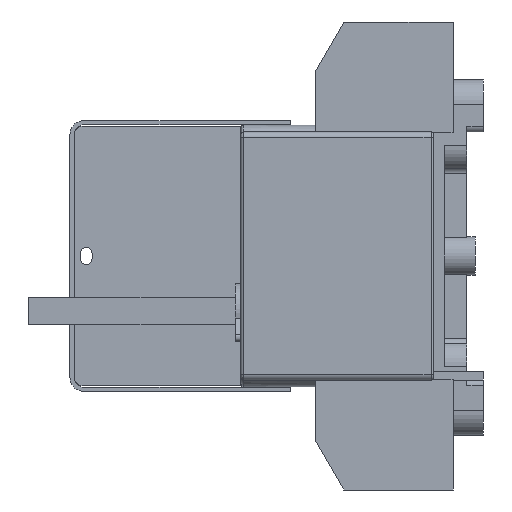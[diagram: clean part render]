
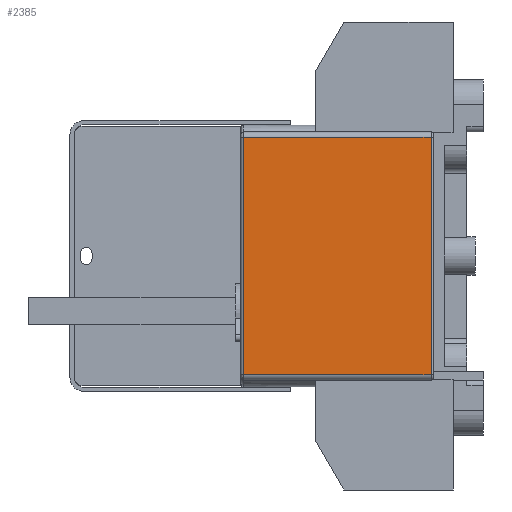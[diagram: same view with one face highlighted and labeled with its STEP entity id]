
A CAD part, left-side view. The second image highlights one B-rep face of the part: STEP entity #2385.
In plain terms, the highlighted planar face has unit normal (-1, 0, 0).
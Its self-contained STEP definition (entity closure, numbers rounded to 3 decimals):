
#2385=ADVANCED_FACE('',(#3852),#3006,.F.);
#3006=PLANE('',#20444);
#3852=FACE_OUTER_BOUND('',#5001,.T.);
#5001=EDGE_LOOP('',(#10038,#10039,#10040,#10041));
#10038=ORIENTED_EDGE('',*,*,#14872,.F.);
#10039=ORIENTED_EDGE('',*,*,#14857,.T.);
#10040=ORIENTED_EDGE('',*,*,#14873,.T.);
#10041=ORIENTED_EDGE('',*,*,#14550,.T.);
#12010=VERTEX_POINT('',#30505);
#12014=VERTEX_POINT('',#30514);
#12206=VERTEX_POINT('',#31218);
#12210=VERTEX_POINT('',#31250);
#14550=EDGE_CURVE('',#12010,#12014,#16658,.T.);
#14857=EDGE_CURVE('',#12206,#12210,#16818,.T.);
#14872=EDGE_CURVE('',#12206,#12014,#16825,.T.);
#14873=EDGE_CURVE('',#12210,#12010,#16826,.T.);
#16658=LINE('',#30515,#18610);
#16818=LINE('',#31251,#18770);
#16825=LINE('',#31304,#18777);
#16826=LINE('',#31306,#18778);
#18610=VECTOR('',#24971,1.);
#18770=VECTOR('',#25631,1.);
#18777=VECTOR('',#25658,1.);
#18778=VECTOR('',#25661,1.);
#20444=AXIS2_PLACEMENT_3D('',#31307,#25662,#25663);
#24971=DIRECTION('',(0.,0.,1.));
#25631=DIRECTION('',(0.,0.,-1.));
#25658=DIRECTION('',(0.,-1.,0.));
#25661=DIRECTION('',(0.,-1.,0.));
#25662=DIRECTION('',(1.,0.,0.));
#25663=DIRECTION('',(0.,0.,-1.));
#30505=CARTESIAN_POINT('',(-41.,1.,-43.));
#30514=CARTESIAN_POINT('',(-41.,1.,43.));
#30515=CARTESIAN_POINT('',(-41.,1.,-43.));
#31218=CARTESIAN_POINT('',(-41.,69.,43.));
#31250=CARTESIAN_POINT('',(-41.,69.,-43.));
#31251=CARTESIAN_POINT('',(-41.,69.,-43.));
#31304=CARTESIAN_POINT('',(-41.,35.,43.));
#31306=CARTESIAN_POINT('',(-41.,35.,-43.));
#31307=CARTESIAN_POINT('',(-41.,35.,-43.));
